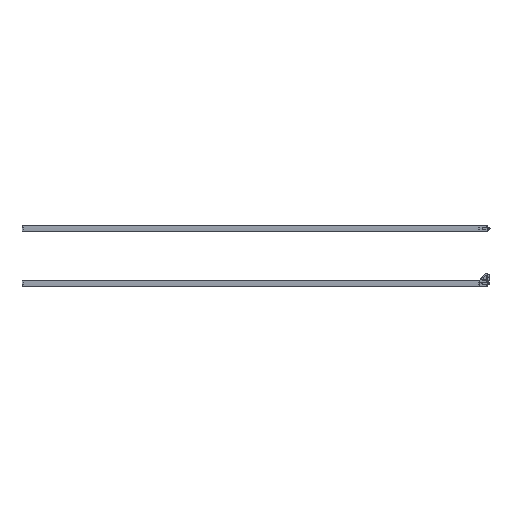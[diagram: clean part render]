
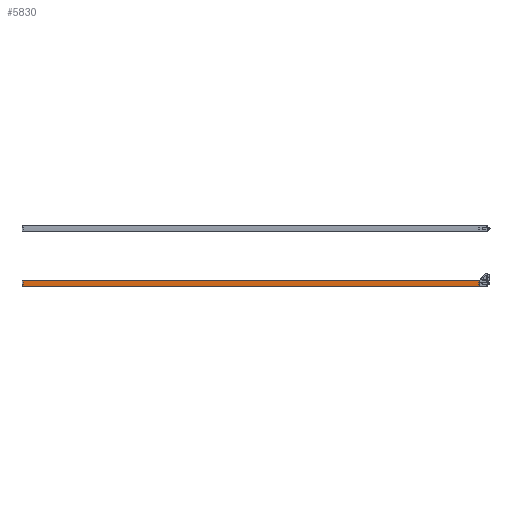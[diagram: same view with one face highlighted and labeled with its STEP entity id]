
A CAD part, left-side view. The second image highlights one B-rep face of the part: STEP entity #5830.
In plain terms, the highlighted cylindrical face has radius 250 mm (diameter 500 mm), a partial arc.
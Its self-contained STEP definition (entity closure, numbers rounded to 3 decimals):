
#5239=CYLINDRICAL_SURFACE('',#43258,250.);
#5830=ADVANCED_FACE('',(#9198),#5239,.T.);
#9198=FACE_OUTER_BOUND('',#11350,.T.);
#11350=EDGE_LOOP('',(#15797,#15798,#15799,#15800));
#14063=CIRCLE('',#43168,250.);
#14110=CIRCLE('',#43257,250.);
#15797=ORIENTED_EDGE('',*,*,#31576,.T.);
#15798=ORIENTED_EDGE('',*,*,#31700,.F.);
#15799=ORIENTED_EDGE('',*,*,#31701,.T.);
#15800=ORIENTED_EDGE('',*,*,#31698,.F.);
#27648=VERTEX_POINT('',#57020);
#27649=VERTEX_POINT('',#57022);
#27730=VERTEX_POINT('',#57266);
#27731=VERTEX_POINT('',#57270);
#31576=EDGE_CURVE('',#27649,#27648,#14063,.T.);
#31698=EDGE_CURVE('',#27649,#27730,#37677,.T.);
#31700=EDGE_CURVE('',#27731,#27648,#37678,.T.);
#31701=EDGE_CURVE('',#27731,#27730,#14110,.T.);
#37677=LINE('',#57265,#40394);
#37678=LINE('',#57269,#40395);
#40394=VECTOR('',#47083,1.);
#40395=VECTOR('',#47088,1.);
#43168=AXIS2_PLACEMENT_3D('',#57021,#46833,#46834);
#43257=AXIS2_PLACEMENT_3D('',#57271,#47089,#47090);
#43258=AXIS2_PLACEMENT_3D('',#57272,#47091,#47092);
#46833=DIRECTION('',(0.,0.,1.));
#46834=DIRECTION('',(-1.,0.,0.));
#47083=DIRECTION('',(0.,0.,1.));
#47088=DIRECTION('',(0.,0.,-1.));
#47089=DIRECTION('',(0.,0.,-1.));
#47090=DIRECTION('',(-0.998,0.067,0.));
#47091=DIRECTION('',(0.,0.,-1.));
#47092=DIRECTION('',(0.998,-0.067,0.));
#57020=CARTESIAN_POINT('',(13.731,16.86,-2720.));
#57021=CARTESIAN_POINT('',(-235.7,0.,-2720.));
#57022=CARTESIAN_POINT('',(13.793,-15.907,-2720.));
#57265=CARTESIAN_POINT('',(13.793,-15.907,-452.));
#57266=CARTESIAN_POINT('',(13.793,-15.907,0.));
#57269=CARTESIAN_POINT('',(13.731,16.86,0.));
#57270=CARTESIAN_POINT('',(13.731,16.86,0.));
#57271=CARTESIAN_POINT('',(-235.7,0.,0.));
#57272=CARTESIAN_POINT('',(-235.7,0.,0.));
